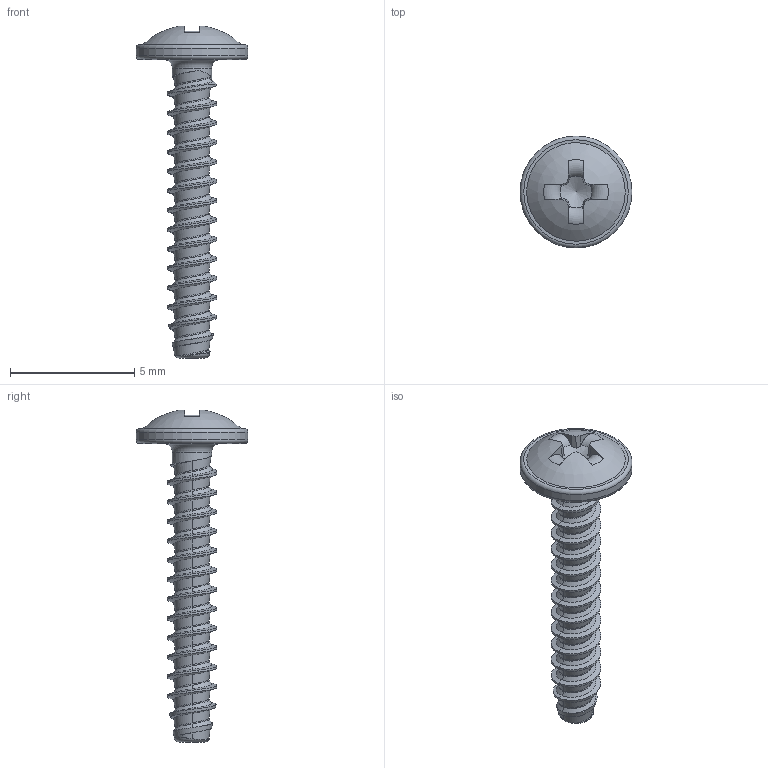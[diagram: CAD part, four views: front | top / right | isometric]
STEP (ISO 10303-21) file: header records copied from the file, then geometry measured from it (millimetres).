
FILE_DESCRIPTION(/* description */ (''),/* implementation_level */ '2;1');
FILE_NAME(/* name */ 'KN6031-STSplus-20x12-H1.step',/* time_stamp */ '2017-09-29T11:56:24+02:00',/* author */ (''),/* organization */ (''),/* preprocessor_version */ 'ST-DEVELOPER v16',/* originating_system */ 'SIEMENS PLM Software NX 10.0',/* authorisation */ '');
FILE_SCHEMA (('AUTOMOTIVE_DESIGN { 1 0 10303 214 3 1 1 1 }'));
Length unit declared in the file: millimetre
Products named in the file (1): KN6031-STSplus-20x12-H1
Bounding box: 4.5 x 4.5 x 13.35 mm (x, y, z)
Volume: 35.6 mm3; surface area: 126.8 mm2
Topology: 1 solids, 1 shells, 97 faces, 252 edges, 158 vertices
Faces by surface type: bspline 62, plane 19, torus 8, cylinder 4, cone 3, sphere 1
Full cylindrical faces by diameter (mm): 1.58 x1, 4.5 x1
Entity records: 6715 total; most frequent: CARTESIAN_POINT 4818, ORIENTED_EDGE 476, EDGE_CURVE 238, DIRECTION 214, VERTEX_POINT 153, B_SPLINE_CURVE_WITH_KNOTS 132, EDGE_LOOP 106, ADVANCED_FACE 97
